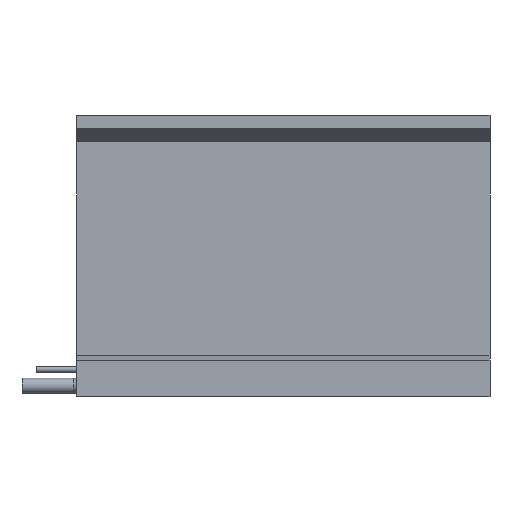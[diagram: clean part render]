
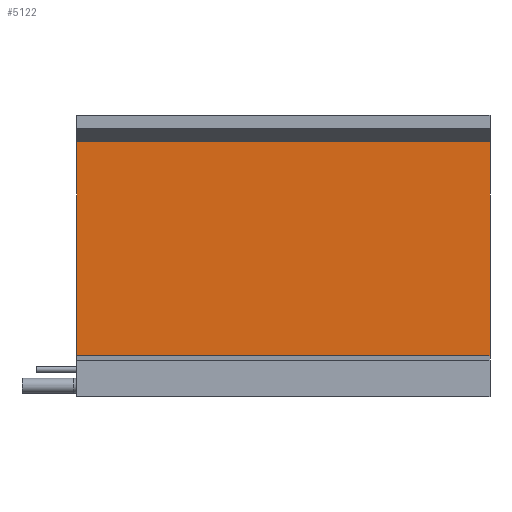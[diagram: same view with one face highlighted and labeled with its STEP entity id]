
A CAD part, left-side view. The second image highlights one B-rep face of the part: STEP entity #5122.
In plain terms, the highlighted planar face has unit normal (-1, 0, 0) as drawn and (1, 0, 0) by its records, which use the part's own axes.
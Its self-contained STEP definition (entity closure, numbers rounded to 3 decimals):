
#280 = CARTESIAN_POINT ( 'NONE',  ( 21.35, 17.11, 265. ) ) ;
#318 = LINE ( 'NONE', #3798, #418 ) ;
#418 = VECTOR ( 'NONE', #1766, 1000. ) ;
#592 = ORIENTED_EDGE ( 'NONE', *, *, #4682, .T. ) ;
#601 = LINE ( 'NONE', #2662, #3394 ) ;
#666 = CARTESIAN_POINT ( 'NONE',  ( 21.35, 154.11, 0. ) ) ;
#947 = VERTEX_POINT ( 'NONE', #3775 ) ;
#970 = ORIENTED_EDGE ( 'NONE', *, *, #5052, .T. ) ;
#1295 = EDGE_CURVE ( 'NONE', #947, #1604, #4701, .T. ) ;
#1299 = DIRECTION ( 'NONE',  ( 0., 0., -1. ) ) ;
#1326 = EDGE_CURVE ( 'NONE', #4487, #947, #318, .T. ) ;
#1424 = DIRECTION ( 'NONE',  ( -1., 0., 0. ) ) ;
#1453 = VECTOR ( 'NONE', #5750, 1000. ) ;
#1519 = VERTEX_POINT ( 'NONE', #4408 ) ;
#1604 = VERTEX_POINT ( 'NONE', #666 ) ;
#1766 = DIRECTION ( 'NONE',  ( 0., 1., 0. ) ) ;
#1786 = AXIS2_PLACEMENT_3D ( 'NONE', #2736, #1424, #2866 ) ;
#1886 = CARTESIAN_POINT ( 'NONE',  ( 21.35, 154.11, 265. ) ) ;
#2069 = VECTOR ( 'NONE', #1299, 1000. ) ;
#2164 = DIRECTION ( 'NONE',  ( 0., 1., 0. ) ) ;
#2662 = CARTESIAN_POINT ( 'NONE',  ( 21.35, 17.11, 0. ) ) ;
#2736 = CARTESIAN_POINT ( 'NONE',  ( 21.35, 17.11, 265. ) ) ;
#2866 = DIRECTION ( 'NONE',  ( 0., 0., 1. ) ) ;
#3124 = LINE ( 'NONE', #280, #2069 ) ;
#3157 = ORIENTED_EDGE ( 'NONE', *, *, #1326, .F. ) ;
#3344 = PLANE ( 'NONE',  #1786 ) ;
#3394 = VECTOR ( 'NONE', #2164, 1000. ) ;
#3775 = CARTESIAN_POINT ( 'NONE',  ( 21.35, 154.11, 265. ) ) ;
#3798 = CARTESIAN_POINT ( 'NONE',  ( 21.35, 17.11, 265. ) ) ;
#4229 = FACE_OUTER_BOUND ( 'NONE', #5044, .T. ) ;
#4408 = CARTESIAN_POINT ( 'NONE',  ( 21.35, 17.11, 0. ) ) ;
#4487 = VERTEX_POINT ( 'NONE', #6182 ) ;
#4682 = EDGE_CURVE ( 'NONE', #1519, #1604, #601, .T. ) ;
#4701 = LINE ( 'NONE', #1886, #1453 ) ;
#5044 = EDGE_LOOP ( 'NONE', ( #592, #6073, #3157, #970 ) ) ;
#5052 = EDGE_CURVE ( 'NONE', #4487, #1519, #3124, .T. ) ;
#5122 = ADVANCED_FACE ( 'NONE', ( #4229 ), #3344, .F. ) ;
#5750 = DIRECTION ( 'NONE',  ( 0., 0., -1. ) ) ;
#6073 = ORIENTED_EDGE ( 'NONE', *, *, #1295, .F. ) ;
#6182 = CARTESIAN_POINT ( 'NONE',  ( 21.35, 17.11, 265. ) ) ;
